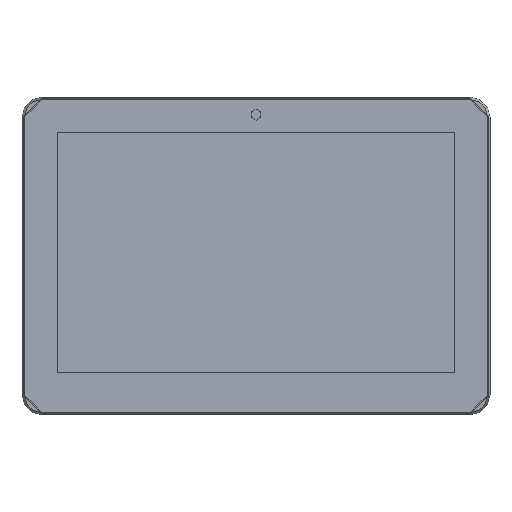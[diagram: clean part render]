
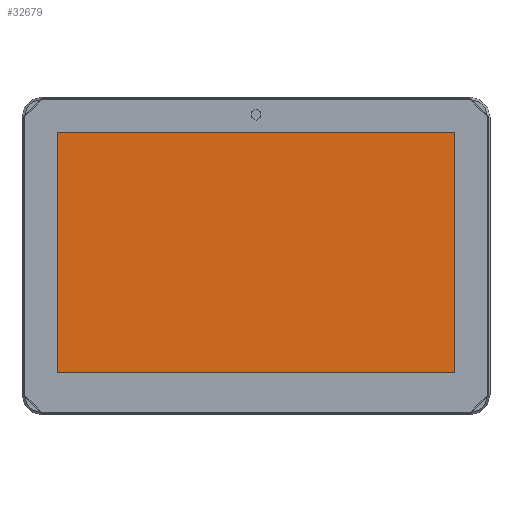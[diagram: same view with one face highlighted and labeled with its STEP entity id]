
A CAD part, front view. The second image highlights one B-rep face of the part: STEP entity #32679.
In plain terms, the highlighted planar face has unit normal (0, -1, 0) as drawn and (0, 1, 0) by its records, which use the part's own axes.
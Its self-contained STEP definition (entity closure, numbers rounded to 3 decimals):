
#4015 = CARTESIAN_POINT ( 'NONE',  ( 54.5, -0.01, 33.85 ) ) ;
#4682 = CARTESIAN_POINT ( 'NONE',  ( 54.5, -0.01, 33.85 ) ) ;
#13386 = EDGE_CURVE ( 'NONE', #261641, #108804, #164029, .T. ) ;
#22378 = LINE ( 'NONE', #4682, #234218 ) ;
#31463 = PLANE ( 'NONE',  #166303 ) ;
#32679 = ADVANCED_FACE ( 'NONE', ( #154422 ), #31463, .T. ) ;
#53059 = DIRECTION ( 'NONE',  ( 0., 0., 1. ) ) ;
#54224 = ORIENTED_EDGE ( 'NONE', *, *, #13386, .T. ) ;
#56763 = EDGE_CURVE ( 'NONE', #165866, #261641, #106495, .T. ) ;
#59259 = EDGE_LOOP ( 'NONE', ( #146670, #113752, #95334, #54224 ) ) ;
#65926 = DIRECTION ( 'NONE',  ( 0., 0., 1. ) ) ;
#95334 = ORIENTED_EDGE ( 'NONE', *, *, #56763, .T. ) ;
#106495 = LINE ( 'NONE', #125381, #258654 ) ;
#108705 = VERTEX_POINT ( 'NONE', #219164 ) ;
#108804 = VERTEX_POINT ( 'NONE', #4015 ) ;
#113752 = ORIENTED_EDGE ( 'NONE', *, *, #144478, .T. ) ;
#116519 = CARTESIAN_POINT ( 'NONE',  ( 0., -0.01, 0. ) ) ;
#125381 = CARTESIAN_POINT ( 'NONE',  ( -54.5, -0.01, -31.95 ) ) ;
#137471 = DIRECTION ( 'NONE',  ( -1., 0., 0. ) ) ;
#144478 = EDGE_CURVE ( 'NONE', #108705, #165866, #260459, .T. ) ;
#146670 = ORIENTED_EDGE ( 'NONE', *, *, #209478, .T. ) ;
#154422 = FACE_OUTER_BOUND ( 'NONE', #59259, .T. ) ;
#157728 = CARTESIAN_POINT ( 'NONE',  ( 54.5, -0.01, -31.95 ) ) ;
#158417 = DIRECTION ( 'NONE',  ( 0., 1., 0. ) ) ;
#164029 = LINE ( 'NONE', #198607, #252974 ) ;
#165866 = VERTEX_POINT ( 'NONE', #182926 ) ;
#166303 = AXIS2_PLACEMENT_3D ( 'NONE', #116519, #158417, #53059 ) ;
#178331 = DIRECTION ( 'NONE',  ( 1., 0., 0. ) ) ;
#182926 = CARTESIAN_POINT ( 'NONE',  ( -54.5, -0.01, -31.95 ) ) ;
#187219 = DIRECTION ( 'NONE',  ( 0., 0., -1. ) ) ;
#198607 = CARTESIAN_POINT ( 'NONE',  ( -54.5, -0.01, 33.85 ) ) ;
#209478 = EDGE_CURVE ( 'NONE', #108804, #108705, #22378, .T. ) ;
#219164 = CARTESIAN_POINT ( 'NONE',  ( 54.5, -0.01, -31.95 ) ) ;
#234218 = VECTOR ( 'NONE', #187219, 1000. ) ;
#236681 = VECTOR ( 'NONE', #137471, 1000. ) ;
#248918 = CARTESIAN_POINT ( 'NONE',  ( -54.5, -0.01, 33.85 ) ) ;
#252974 = VECTOR ( 'NONE', #178331, 1000. ) ;
#258654 = VECTOR ( 'NONE', #65926, 1000. ) ;
#260459 = LINE ( 'NONE', #157728, #236681 ) ;
#261641 = VERTEX_POINT ( 'NONE', #248918 ) ;
